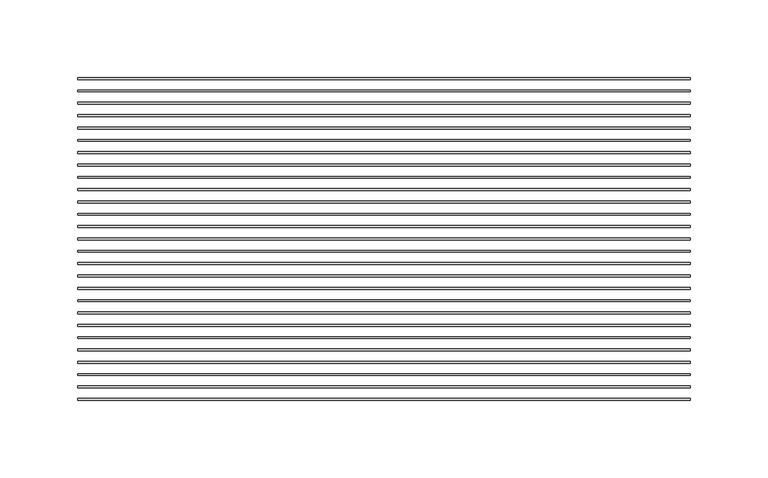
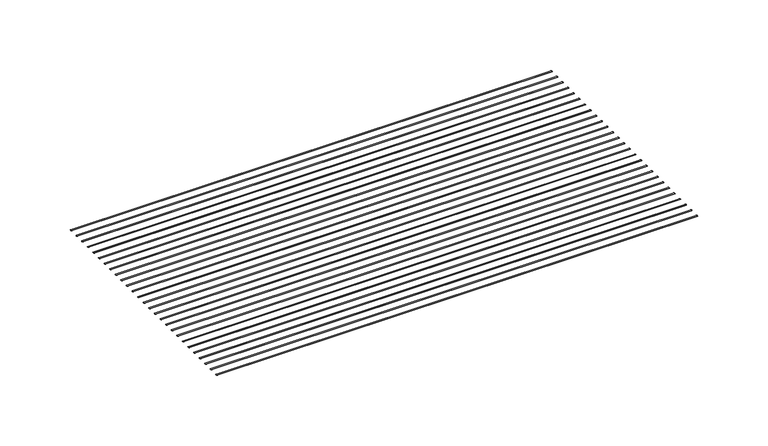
"""IFC4 building model written with IfcOpenShell, lengths in millimetres: proxy geometry, CRAi Generic Model Mesh Piece Face Based : CRAi Generic Model Mesh Piece Face Based."""

from ifc_helpers import new_model, si_unit, point, frame, origin, place, context, project, spatial, ellipse_curve, trimmed, source, transform, mapped, element, save
from ifc_brep_helpers import plane_surface, extruded_surface, advanced_brep


def generic_models_4c4c8c8b(model_context):
    return source(origin(), model_context, "Body", "AdvancedBrep", [
        advanced_brep(
        [(-196.85, -126.8644515, -2.9765625), (-196.85, -125.6738265, -2.9765625), (196.85, -126.8644515, -2.9765625), (196.85, -125.6738265, -2.9765625)],
        [
            (0, 1, ellipse_curve(frame((-196.85, -126.269139, -2.9765625), z_axis=(-1.0, 0.0, 0.0), x_axis=(0.0, 1.0, 0.0)), 0.5953125, 0.1984375)),
            (1, 0, ellipse_curve(frame((-196.85, -126.269139, -2.9765625), z_axis=(-1.0, 0.0, 0.0), x_axis=(0.0, 1.0, 0.0)), 0.5953125, 0.1984375)),
            (2, 3, ellipse_curve(frame((196.85, -126.269139, -2.9765625), z_axis=(1.0, 0.0, 0.0), x_axis=(0.0, 1.0, 0.0)), 0.5953125, 0.1984375)),
            (3, 2, ellipse_curve(frame((196.85, -126.269139, -2.9765625), z_axis=(1.0, 0.0, 0.0), x_axis=(0.0, 1.0, 0.0)), 0.5953125, 0.1984375)),
            (1, 3),
            (2, 0),
        ],
        [
            plane_surface(frame((-196.85, -126.269139, -2.9765625), z_axis=(-1.0, 0.0, 0.0), x_axis=(0.0, 0.0, 1.0))),
            plane_surface(frame((196.85, -126.269139, -2.9765625), z_axis=(1.0, 0.0, 0.0), x_axis=(0.0, 0.0, 1.0))),
            extruded_surface(trimmed(ellipse_curve(frame((-196.85, -126.269139, -2.9765625), z_axis=(1.0, 0.0, 0.0), x_axis=(0.0, 1.0, 0.0)), 0.5953125, 0.1984375), [point((-196.85, -126.8644515, -2.9765625))], [point((-196.85, -125.6738265, -2.9765625))], True, "CARTESIAN"), (393.7, 0.0, 0.0), 393.7),
            extruded_surface(trimmed(ellipse_curve(frame((-196.85, -126.269139, -2.9765625), z_axis=(1.0, 0.0, 0.0), x_axis=(0.0, 1.0, 0.0)), 0.5953125, 0.1984375), [point((-196.85, -125.6738265, -2.9765625))], [point((-196.85, -126.8644515, -2.9765625))], True, "CARTESIAN"), (393.7, 0.0, 0.0), 393.7),
        ],
        [
            (0, [[1, 2]]),
            (1, [[3, 4]]),
            (2, [[5, -3, 6, -2]]),
            (3, [[-6, -4, -5, -1]]),
        ],
    ),
        advanced_brep(
        [(-196.85, -118.9269515, -2.9765625), (-196.85, -117.7363265, -2.9765625), (196.85, -118.9269515, -2.9765625), (196.85, -117.7363265, -2.9765625)],
        [
            (0, 1, ellipse_curve(frame((-196.85, -118.331639, -2.9765625), z_axis=(-1.0, 0.0, 0.0), x_axis=(0.0, 1.0, 0.0)), 0.5953125, 0.1984375)),
            (1, 0, ellipse_curve(frame((-196.85, -118.331639, -2.9765625), z_axis=(-1.0, 0.0, 0.0), x_axis=(0.0, 1.0, 0.0)), 0.5953125, 0.1984375)),
            (2, 3, ellipse_curve(frame((196.85, -118.331639, -2.9765625), z_axis=(1.0, 0.0, 0.0), x_axis=(0.0, 1.0, 0.0)), 0.5953125, 0.1984375)),
            (3, 2, ellipse_curve(frame((196.85, -118.331639, -2.9765625), z_axis=(1.0, 0.0, 0.0), x_axis=(0.0, 1.0, 0.0)), 0.5953125, 0.1984375)),
            (1, 3),
            (2, 0),
        ],
        [
            plane_surface(frame((-196.85, -118.331639, -2.9765625), z_axis=(-1.0, 0.0, 0.0), x_axis=(0.0, 0.0, 1.0))),
            plane_surface(frame((196.85, -118.331639, -2.9765625), z_axis=(1.0, 0.0, 0.0), x_axis=(0.0, 0.0, 1.0))),
            extruded_surface(trimmed(ellipse_curve(frame((-196.85, -118.331639, -2.9765625), z_axis=(1.0, 0.0, 0.0), x_axis=(0.0, 1.0, 0.0)), 0.5953125, 0.1984375), [point((-196.85, -118.9269515, -2.9765625))], [point((-196.85, -117.7363265, -2.9765625))], True, "CARTESIAN"), (393.7, 0.0, 0.0), 393.7),
            extruded_surface(trimmed(ellipse_curve(frame((-196.85, -118.331639, -2.9765625), z_axis=(1.0, 0.0, 0.0), x_axis=(0.0, 1.0, 0.0)), 0.5953125, 0.1984375), [point((-196.85, -117.7363265, -2.9765625))], [point((-196.85, -118.9269515, -2.9765625))], True, "CARTESIAN"), (393.7, 0.0, 0.0), 393.7),
        ],
        [
            (0, [[1, 2]]),
            (1, [[3, 4]]),
            (2, [[5, -3, 6, -2]]),
            (3, [[-6, -4, -5, -1]]),
        ],
    ),
        advanced_brep(
        [(-196.85, -110.9894515, -2.9765625), (-196.85, -109.7988265, -2.9765625), (196.85, -110.9894515, -2.9765625), (196.85, -109.7988265, -2.9765625)],
        [
            (0, 1, ellipse_curve(frame((-196.85, -110.394139, -2.9765625), z_axis=(-1.0, 0.0, 0.0), x_axis=(0.0, 1.0, 0.0)), 0.5953125, 0.1984375)),
            (1, 0, ellipse_curve(frame((-196.85, -110.394139, -2.9765625), z_axis=(-1.0, 0.0, 0.0), x_axis=(0.0, 1.0, 0.0)), 0.5953125, 0.1984375)),
            (2, 3, ellipse_curve(frame((196.85, -110.394139, -2.9765625), z_axis=(1.0, 0.0, 0.0), x_axis=(0.0, 1.0, 0.0)), 0.5953125, 0.1984375)),
            (3, 2, ellipse_curve(frame((196.85, -110.394139, -2.9765625), z_axis=(1.0, 0.0, 0.0), x_axis=(0.0, 1.0, 0.0)), 0.5953125, 0.1984375)),
            (1, 3),
            (2, 0),
        ],
        [
            plane_surface(frame((-196.85, -110.394139, -2.9765625), z_axis=(-1.0, 0.0, 0.0), x_axis=(0.0, 0.0, 1.0))),
            plane_surface(frame((196.85, -110.394139, -2.9765625), z_axis=(1.0, 0.0, 0.0), x_axis=(0.0, 0.0, 1.0))),
            extruded_surface(trimmed(ellipse_curve(frame((-196.85, -110.394139, -2.9765625), z_axis=(1.0, 0.0, 0.0), x_axis=(0.0, 1.0, 0.0)), 0.5953125, 0.1984375), [point((-196.85, -110.9894515, -2.9765625))], [point((-196.85, -109.7988265, -2.9765625))], True, "CARTESIAN"), (393.7, 0.0, 0.0), 393.7),
            extruded_surface(trimmed(ellipse_curve(frame((-196.85, -110.394139, -2.9765625), z_axis=(1.0, 0.0, 0.0), x_axis=(0.0, 1.0, 0.0)), 0.5953125, 0.1984375), [point((-196.85, -109.7988265, -2.9765625))], [point((-196.85, -110.9894515, -2.9765625))], True, "CARTESIAN"), (393.7, 0.0, 0.0), 393.7),
        ],
        [
            (0, [[1, 2]]),
            (1, [[3, 4]]),
            (2, [[5, -3, 6, -2]]),
            (3, [[-6, -4, -5, -1]]),
        ],
    ),
        advanced_brep(
        [(-196.85, -103.0519515, -2.9765625), (-196.85, -101.8613265, -2.9765625), (196.85, -103.0519515, -2.9765625), (196.85, -101.8613265, -2.9765625)],
        [
            (0, 1, ellipse_curve(frame((-196.85, -102.456639, -2.9765625), z_axis=(-1.0, 0.0, 0.0), x_axis=(0.0, 1.0, 0.0)), 0.5953125, 0.1984375)),
            (1, 0, ellipse_curve(frame((-196.85, -102.456639, -2.9765625), z_axis=(-1.0, 0.0, 0.0), x_axis=(0.0, 1.0, 0.0)), 0.5953125, 0.1984375)),
            (2, 3, ellipse_curve(frame((196.85, -102.456639, -2.9765625), z_axis=(1.0, 0.0, 0.0), x_axis=(0.0, 1.0, 0.0)), 0.5953125, 0.1984375)),
            (3, 2, ellipse_curve(frame((196.85, -102.456639, -2.9765625), z_axis=(1.0, 0.0, 0.0), x_axis=(0.0, 1.0, 0.0)), 0.5953125, 0.1984375)),
            (1, 3),
            (2, 0),
        ],
        [
            plane_surface(frame((-196.85, -102.456639, -2.9765625), z_axis=(-1.0, 0.0, 0.0), x_axis=(0.0, 0.0, 1.0))),
            plane_surface(frame((196.85, -102.456639, -2.9765625), z_axis=(1.0, 0.0, 0.0), x_axis=(0.0, 0.0, 1.0))),
            extruded_surface(trimmed(ellipse_curve(frame((-196.85, -102.456639, -2.9765625), z_axis=(1.0, 0.0, 0.0), x_axis=(0.0, 1.0, 0.0)), 0.5953125, 0.1984375), [point((-196.85, -103.0519515, -2.9765625))], [point((-196.85, -101.8613265, -2.9765625))], True, "CARTESIAN"), (393.7, 0.0, 0.0), 393.7),
            extruded_surface(trimmed(ellipse_curve(frame((-196.85, -102.456639, -2.9765625), z_axis=(1.0, 0.0, 0.0), x_axis=(0.0, 1.0, 0.0)), 0.5953125, 0.1984375), [point((-196.85, -101.8613265, -2.9765625))], [point((-196.85, -103.0519515, -2.9765625))], True, "CARTESIAN"), (393.7, 0.0, 0.0), 393.7),
        ],
        [
            (0, [[1, 2]]),
            (1, [[3, 4]]),
            (2, [[5, -3, 6, -2]]),
            (3, [[-6, -4, -5, -1]]),
        ],
    ),
        advanced_brep(
        [(-196.85, -95.1144515, -2.9765625), (-196.85, -93.9238265, -2.9765625), (196.85, -95.1144515, -2.9765625), (196.85, -93.9238265, -2.9765625)],
        [
            (0, 1, ellipse_curve(frame((-196.85, -94.519139, -2.9765625), z_axis=(-1.0, 0.0, 0.0), x_axis=(0.0, 1.0, 0.0)), 0.5953125, 0.1984375)),
            (1, 0, ellipse_curve(frame((-196.85, -94.519139, -2.9765625), z_axis=(-1.0, 0.0, 0.0), x_axis=(0.0, 1.0, 0.0)), 0.5953125, 0.1984375)),
            (2, 3, ellipse_curve(frame((196.85, -94.519139, -2.9765625), z_axis=(1.0, 0.0, 0.0), x_axis=(0.0, 1.0, 0.0)), 0.5953125, 0.1984375)),
            (3, 2, ellipse_curve(frame((196.85, -94.519139, -2.9765625), z_axis=(1.0, 0.0, 0.0), x_axis=(0.0, 1.0, 0.0)), 0.5953125, 0.1984375)),
            (1, 3),
            (2, 0),
        ],
        [
            plane_surface(frame((-196.85, -94.519139, -2.9765625), z_axis=(-1.0, 0.0, 0.0), x_axis=(0.0, 0.0, 1.0))),
            plane_surface(frame((196.85, -94.519139, -2.9765625), z_axis=(1.0, 0.0, 0.0), x_axis=(0.0, 0.0, 1.0))),
            extruded_surface(trimmed(ellipse_curve(frame((-196.85, -94.519139, -2.9765625), z_axis=(1.0, 0.0, 0.0), x_axis=(0.0, 1.0, 0.0)), 0.5953125, 0.1984375), [point((-196.85, -95.1144515, -2.9765625))], [point((-196.85, -93.9238265, -2.9765625))], True, "CARTESIAN"), (393.7, 0.0, 0.0), 393.7),
            extruded_surface(trimmed(ellipse_curve(frame((-196.85, -94.519139, -2.9765625), z_axis=(1.0, 0.0, 0.0), x_axis=(0.0, 1.0, 0.0)), 0.5953125, 0.1984375), [point((-196.85, -93.9238265, -2.9765625))], [point((-196.85, -95.1144515, -2.9765625))], True, "CARTESIAN"), (393.7, 0.0, 0.0), 393.7),
        ],
        [
            (0, [[1, 2]]),
            (1, [[3, 4]]),
            (2, [[5, -3, 6, -2]]),
            (3, [[-6, -4, -5, -1]]),
        ],
    ),
        advanced_brep(
        [(-196.85, -87.1769515, -2.9765625), (-196.85, -85.9863265, -2.9765625), (196.85, -87.1769515, -2.9765625), (196.85, -85.9863265, -2.9765625)],
        [
            (0, 1, ellipse_curve(frame((-196.85, -86.581639, -2.9765625), z_axis=(-1.0, 0.0, 0.0), x_axis=(0.0, 1.0, 0.0)), 0.5953125, 0.1984375)),
            (1, 0, ellipse_curve(frame((-196.85, -86.581639, -2.9765625), z_axis=(-1.0, 0.0, 0.0), x_axis=(0.0, 1.0, 0.0)), 0.5953125, 0.1984375)),
            (2, 3, ellipse_curve(frame((196.85, -86.581639, -2.9765625), z_axis=(1.0, 0.0, 0.0), x_axis=(0.0, 1.0, 0.0)), 0.5953125, 0.1984375)),
            (3, 2, ellipse_curve(frame((196.85, -86.581639, -2.9765625), z_axis=(1.0, 0.0, 0.0), x_axis=(0.0, 1.0, 0.0)), 0.5953125, 0.1984375)),
            (1, 3),
            (2, 0),
        ],
        [
            plane_surface(frame((-196.85, -86.581639, -2.9765625), z_axis=(-1.0, 0.0, 0.0), x_axis=(0.0, 0.0, 1.0))),
            plane_surface(frame((196.85, -86.581639, -2.9765625), z_axis=(1.0, 0.0, 0.0), x_axis=(0.0, 0.0, 1.0))),
            extruded_surface(trimmed(ellipse_curve(frame((-196.85, -86.581639, -2.9765625), z_axis=(1.0, 0.0, 0.0), x_axis=(0.0, 1.0, 0.0)), 0.5953125, 0.1984375), [point((-196.85, -87.1769515, -2.9765625))], [point((-196.85, -85.9863265, -2.9765625))], True, "CARTESIAN"), (393.7, 0.0, 0.0), 393.7),
            extruded_surface(trimmed(ellipse_curve(frame((-196.85, -86.581639, -2.9765625), z_axis=(1.0, 0.0, 0.0), x_axis=(0.0, 1.0, 0.0)), 0.5953125, 0.1984375), [point((-196.85, -85.9863265, -2.9765625))], [point((-196.85, -87.1769515, -2.9765625))], True, "CARTESIAN"), (393.7, 0.0, 0.0), 393.7),
        ],
        [
            (0, [[1, 2]]),
            (1, [[3, 4]]),
            (2, [[5, -3, 6, -2]]),
            (3, [[-6, -4, -5, -1]]),
        ],
    ),
        advanced_brep(
        [(-196.85, -79.2394515, -2.9765625), (-196.85, -78.0488265, -2.9765625), (196.85, -79.2394515, -2.9765625), (196.85, -78.0488265, -2.9765625)],
        [
            (0, 1, ellipse_curve(frame((-196.85, -78.644139, -2.9765625), z_axis=(-1.0, 0.0, 0.0), x_axis=(0.0, 1.0, 0.0)), 0.5953125, 0.1984375)),
            (1, 0, ellipse_curve(frame((-196.85, -78.644139, -2.9765625), z_axis=(-1.0, 0.0, 0.0), x_axis=(0.0, 1.0, 0.0)), 0.5953125, 0.1984375)),
            (2, 3, ellipse_curve(frame((196.85, -78.644139, -2.9765625), z_axis=(1.0, 0.0, 0.0), x_axis=(0.0, 1.0, 0.0)), 0.5953125, 0.1984375)),
            (3, 2, ellipse_curve(frame((196.85, -78.644139, -2.9765625), z_axis=(1.0, 0.0, 0.0), x_axis=(0.0, 1.0, 0.0)), 0.5953125, 0.1984375)),
            (1, 3),
            (2, 0),
        ],
        [
            plane_surface(frame((-196.85, -78.644139, -2.9765625), z_axis=(-1.0, 0.0, 0.0), x_axis=(0.0, 0.0, 1.0))),
            plane_surface(frame((196.85, -78.644139, -2.9765625), z_axis=(1.0, 0.0, 0.0), x_axis=(0.0, 0.0, 1.0))),
            extruded_surface(trimmed(ellipse_curve(frame((-196.85, -78.644139, -2.9765625), z_axis=(1.0, 0.0, 0.0), x_axis=(0.0, 1.0, 0.0)), 0.5953125, 0.1984375), [point((-196.85, -79.2394515, -2.9765625))], [point((-196.85, -78.0488265, -2.9765625))], True, "CARTESIAN"), (393.7, 0.0, 0.0), 393.7),
            extruded_surface(trimmed(ellipse_curve(frame((-196.85, -78.644139, -2.9765625), z_axis=(1.0, 0.0, 0.0), x_axis=(0.0, 1.0, 0.0)), 0.5953125, 0.1984375), [point((-196.85, -78.0488265, -2.9765625))], [point((-196.85, -79.2394515, -2.9765625))], True, "CARTESIAN"), (393.7, 0.0, 0.0), 393.7),
        ],
        [
            (0, [[1, 2]]),
            (1, [[3, 4]]),
            (2, [[5, -3, 6, -2]]),
            (3, [[-6, -4, -5, -1]]),
        ],
    ),
        advanced_brep(
        [(-196.85, -71.3019515, -2.9765625), (-196.85, -70.1113265, -2.9765625), (196.85, -71.3019515, -2.9765625), (196.85, -70.1113265, -2.9765625)],
        [
            (0, 1, ellipse_curve(frame((-196.85, -70.706639, -2.9765625), z_axis=(-1.0, 0.0, 0.0), x_axis=(0.0, 1.0, 0.0)), 0.5953125, 0.1984375)),
            (1, 0, ellipse_curve(frame((-196.85, -70.706639, -2.9765625), z_axis=(-1.0, 0.0, 0.0), x_axis=(0.0, 1.0, 0.0)), 0.5953125, 0.1984375)),
            (2, 3, ellipse_curve(frame((196.85, -70.706639, -2.9765625), z_axis=(1.0, 0.0, 0.0), x_axis=(0.0, 1.0, 0.0)), 0.5953125, 0.1984375)),
            (3, 2, ellipse_curve(frame((196.85, -70.706639, -2.9765625), z_axis=(1.0, 0.0, 0.0), x_axis=(0.0, 1.0, 0.0)), 0.5953125, 0.1984375)),
            (1, 3),
            (2, 0),
        ],
        [
            plane_surface(frame((-196.85, -70.706639, -2.9765625), z_axis=(-1.0, 0.0, 0.0), x_axis=(0.0, 0.0, 1.0))),
            plane_surface(frame((196.85, -70.706639, -2.9765625), z_axis=(1.0, 0.0, 0.0), x_axis=(0.0, 0.0, 1.0))),
            extruded_surface(trimmed(ellipse_curve(frame((-196.85, -70.706639, -2.9765625), z_axis=(1.0, 0.0, 0.0), x_axis=(0.0, 1.0, 0.0)), 0.5953125, 0.1984375), [point((-196.85, -71.3019515, -2.9765625))], [point((-196.85, -70.1113265, -2.9765625))], True, "CARTESIAN"), (393.7, 0.0, 0.0), 393.7),
            extruded_surface(trimmed(ellipse_curve(frame((-196.85, -70.706639, -2.9765625), z_axis=(1.0, 0.0, 0.0), x_axis=(0.0, 1.0, 0.0)), 0.5953125, 0.1984375), [point((-196.85, -70.1113265, -2.9765625))], [point((-196.85, -71.3019515, -2.9765625))], True, "CARTESIAN"), (393.7, 0.0, 0.0), 393.7),
        ],
        [
            (0, [[1, 2]]),
            (1, [[3, 4]]),
            (2, [[5, -3, 6, -2]]),
            (3, [[-6, -4, -5, -1]]),
        ],
    ),
        advanced_brep(
        [(-196.85, -63.3644515, -2.9765625), (-196.85, -62.1738265, -2.9765625), (196.85, -63.3644515, -2.9765625), (196.85, -62.1738265, -2.9765625)],
        [
            (0, 1, ellipse_curve(frame((-196.85, -62.769139, -2.9765625), z_axis=(-1.0, 0.0, 0.0), x_axis=(0.0, 1.0, 0.0)), 0.5953125, 0.1984375)),
            (1, 0, ellipse_curve(frame((-196.85, -62.769139, -2.9765625), z_axis=(-1.0, 0.0, 0.0), x_axis=(0.0, 1.0, 0.0)), 0.5953125, 0.1984375)),
            (2, 3, ellipse_curve(frame((196.85, -62.769139, -2.9765625), z_axis=(1.0, 0.0, 0.0), x_axis=(0.0, 1.0, 0.0)), 0.5953125, 0.1984375)),
            (3, 2, ellipse_curve(frame((196.85, -62.769139, -2.9765625), z_axis=(1.0, 0.0, 0.0), x_axis=(0.0, 1.0, 0.0)), 0.5953125, 0.1984375)),
            (1, 3),
            (2, 0),
        ],
        [
            plane_surface(frame((-196.85, -62.769139, -2.9765625), z_axis=(-1.0, 0.0, 0.0), x_axis=(0.0, 0.0, 1.0))),
            plane_surface(frame((196.85, -62.769139, -2.9765625), z_axis=(1.0, 0.0, 0.0), x_axis=(0.0, 0.0, 1.0))),
            extruded_surface(trimmed(ellipse_curve(frame((-196.85, -62.769139, -2.9765625), z_axis=(1.0, 0.0, 0.0), x_axis=(0.0, 1.0, 0.0)), 0.5953125, 0.1984375), [point((-196.85, -63.3644515, -2.9765625))], [point((-196.85, -62.1738265, -2.9765625))], True, "CARTESIAN"), (393.7, 0.0, 0.0), 393.7),
            extruded_surface(trimmed(ellipse_curve(frame((-196.85, -62.769139, -2.9765625), z_axis=(1.0, 0.0, 0.0), x_axis=(0.0, 1.0, 0.0)), 0.5953125, 0.1984375), [point((-196.85, -62.1738265, -2.9765625))], [point((-196.85, -63.3644515, -2.9765625))], True, "CARTESIAN"), (393.7, 0.0, 0.0), 393.7),
        ],
        [
            (0, [[1, 2]]),
            (1, [[3, 4]]),
            (2, [[5, -3, 6, -2]]),
            (3, [[-6, -4, -5, -1]]),
        ],
    ),
        advanced_brep(
        [(-196.85, -55.4269515, -2.9765625), (-196.85, -54.2363265, -2.9765625), (196.85, -55.4269515, -2.9765625), (196.85, -54.2363265, -2.9765625)],
        [
            (0, 1, ellipse_curve(frame((-196.85, -54.831639, -2.9765625), z_axis=(-1.0, 0.0, 0.0), x_axis=(0.0, 1.0, 0.0)), 0.5953125, 0.1984375)),
            (1, 0, ellipse_curve(frame((-196.85, -54.831639, -2.9765625), z_axis=(-1.0, 0.0, 0.0), x_axis=(0.0, 1.0, 0.0)), 0.5953125, 0.1984375)),
            (2, 3, ellipse_curve(frame((196.85, -54.831639, -2.9765625), z_axis=(1.0, 0.0, 0.0), x_axis=(0.0, 1.0, 0.0)), 0.5953125, 0.1984375)),
            (3, 2, ellipse_curve(frame((196.85, -54.831639, -2.9765625), z_axis=(1.0, 0.0, 0.0), x_axis=(0.0, 1.0, 0.0)), 0.5953125, 0.1984375)),
            (1, 3),
            (2, 0),
        ],
        [
            plane_surface(frame((-196.85, -54.831639, -2.9765625), z_axis=(-1.0, 0.0, 0.0), x_axis=(0.0, 0.0, 1.0))),
            plane_surface(frame((196.85, -54.831639, -2.9765625), z_axis=(1.0, 0.0, 0.0), x_axis=(0.0, 0.0, 1.0))),
            extruded_surface(trimmed(ellipse_curve(frame((-196.85, -54.831639, -2.9765625), z_axis=(1.0, 0.0, 0.0), x_axis=(0.0, 1.0, 0.0)), 0.5953125, 0.1984375), [point((-196.85, -55.4269515, -2.9765625))], [point((-196.85, -54.2363265, -2.9765625))], True, "CARTESIAN"), (393.7, 0.0, 0.0), 393.7),
            extruded_surface(trimmed(ellipse_curve(frame((-196.85, -54.831639, -2.9765625), z_axis=(1.0, 0.0, 0.0), x_axis=(0.0, 1.0, 0.0)), 0.5953125, 0.1984375), [point((-196.85, -54.2363265, -2.9765625))], [point((-196.85, -55.4269515, -2.9765625))], True, "CARTESIAN"), (393.7, 0.0, 0.0), 393.7),
        ],
        [
            (0, [[1, 2]]),
            (1, [[3, 4]]),
            (2, [[5, -3, 6, -2]]),
            (3, [[-6, -4, -5, -1]]),
        ],
    ),
        advanced_brep(
        [(-196.85, -47.4894515, -2.9765625), (-196.85, -46.2988265, -2.9765625), (196.85, -47.4894515, -2.9765625), (196.85, -46.2988265, -2.9765625)],
        [
            (0, 1, ellipse_curve(frame((-196.85, -46.894139, -2.9765625), z_axis=(-1.0, 0.0, 0.0), x_axis=(0.0, 1.0, 0.0)), 0.5953125, 0.1984375)),
            (1, 0, ellipse_curve(frame((-196.85, -46.894139, -2.9765625), z_axis=(-1.0, 0.0, 0.0), x_axis=(0.0, 1.0, 0.0)), 0.5953125, 0.1984375)),
            (2, 3, ellipse_curve(frame((196.85, -46.894139, -2.9765625), z_axis=(1.0, 0.0, 0.0), x_axis=(0.0, 1.0, 0.0)), 0.5953125, 0.1984375)),
            (3, 2, ellipse_curve(frame((196.85, -46.894139, -2.9765625), z_axis=(1.0, 0.0, 0.0), x_axis=(0.0, 1.0, 0.0)), 0.5953125, 0.1984375)),
            (1, 3),
            (2, 0),
        ],
        [
            plane_surface(frame((-196.85, -46.894139, -2.9765625), z_axis=(-1.0, 0.0, 0.0), x_axis=(0.0, 0.0, 1.0))),
            plane_surface(frame((196.85, -46.894139, -2.9765625), z_axis=(1.0, 0.0, 0.0), x_axis=(0.0, 0.0, 1.0))),
            extruded_surface(trimmed(ellipse_curve(frame((-196.85, -46.894139, -2.9765625), z_axis=(1.0, 0.0, 0.0), x_axis=(0.0, 1.0, 0.0)), 0.5953125, 0.1984375), [point((-196.85, -47.4894515, -2.9765625))], [point((-196.85, -46.2988265, -2.9765625))], True, "CARTESIAN"), (393.7, 0.0, 0.0), 393.7),
            extruded_surface(trimmed(ellipse_curve(frame((-196.85, -46.894139, -2.9765625), z_axis=(1.0, 0.0, 0.0), x_axis=(0.0, 1.0, 0.0)), 0.5953125, 0.1984375), [point((-196.85, -46.2988265, -2.9765625))], [point((-196.85, -47.4894515, -2.9765625))], True, "CARTESIAN"), (393.7, 0.0, 0.0), 393.7),
        ],
        [
            (0, [[1, 2]]),
            (1, [[3, 4]]),
            (2, [[5, -3, 6, -2]]),
            (3, [[-6, -4, -5, -1]]),
        ],
    ),
        advanced_brep(
        [(-196.85, -39.5519515, -2.9765625), (-196.85, -38.3613265, -2.9765625), (196.85, -39.5519515, -2.9765625), (196.85, -38.3613265, -2.9765625)],
        [
            (0, 1, ellipse_curve(frame((-196.85, -38.956639, -2.9765625), z_axis=(-1.0, 0.0, 0.0), x_axis=(0.0, 1.0, 0.0)), 0.5953125, 0.1984375)),
            (1, 0, ellipse_curve(frame((-196.85, -38.956639, -2.9765625), z_axis=(-1.0, 0.0, 0.0), x_axis=(0.0, 1.0, 0.0)), 0.5953125, 0.1984375)),
            (2, 3, ellipse_curve(frame((196.85, -38.956639, -2.9765625), z_axis=(1.0, 0.0, 0.0), x_axis=(0.0, 1.0, 0.0)), 0.5953125, 0.1984375)),
            (3, 2, ellipse_curve(frame((196.85, -38.956639, -2.9765625), z_axis=(1.0, 0.0, 0.0), x_axis=(0.0, 1.0, 0.0)), 0.5953125, 0.1984375)),
            (1, 3),
            (2, 0),
        ],
        [
            plane_surface(frame((-196.85, -38.956639, -2.9765625), z_axis=(-1.0, 0.0, 0.0), x_axis=(0.0, 0.0, 1.0))),
            plane_surface(frame((196.85, -38.956639, -2.9765625), z_axis=(1.0, 0.0, 0.0), x_axis=(0.0, 0.0, 1.0))),
            extruded_surface(trimmed(ellipse_curve(frame((-196.85, -38.956639, -2.9765625), z_axis=(1.0, 0.0, 0.0), x_axis=(0.0, 1.0, 0.0)), 0.5953125, 0.1984375), [point((-196.85, -39.5519515, -2.9765625))], [point((-196.85, -38.3613265, -2.9765625))], True, "CARTESIAN"), (393.7, 0.0, 0.0), 393.7),
            extruded_surface(trimmed(ellipse_curve(frame((-196.85, -38.956639, -2.9765625), z_axis=(1.0, 0.0, 0.0), x_axis=(0.0, 1.0, 0.0)), 0.5953125, 0.1984375), [point((-196.85, -38.3613265, -2.9765625))], [point((-196.85, -39.5519515, -2.9765625))], True, "CARTESIAN"), (393.7, 0.0, 0.0), 393.7),
        ],
        [
            (0, [[1, 2]]),
            (1, [[3, 4]]),
            (2, [[5, -3, 6, -2]]),
            (3, [[-6, -4, -5, -1]]),
        ],
    ),
        advanced_brep(
        [(-196.85, -31.6144515, -2.9765625), (-196.85, -30.4238265, -2.9765625), (196.85, -31.6144515, -2.9765625), (196.85, -30.4238265, -2.9765625)],
        [
            (0, 1, ellipse_curve(frame((-196.85, -31.019139, -2.9765625), z_axis=(-1.0, 0.0, 0.0), x_axis=(0.0, 1.0, 0.0)), 0.5953125, 0.1984375)),
            (1, 0, ellipse_curve(frame((-196.85, -31.019139, -2.9765625), z_axis=(-1.0, 0.0, 0.0), x_axis=(0.0, 1.0, 0.0)), 0.5953125, 0.1984375)),
            (2, 3, ellipse_curve(frame((196.85, -31.019139, -2.9765625), z_axis=(1.0, 0.0, 0.0), x_axis=(0.0, 1.0, 0.0)), 0.5953125, 0.1984375)),
            (3, 2, ellipse_curve(frame((196.85, -31.019139, -2.9765625), z_axis=(1.0, 0.0, 0.0), x_axis=(0.0, 1.0, 0.0)), 0.5953125, 0.1984375)),
            (1, 3),
            (2, 0),
        ],
        [
            plane_surface(frame((-196.85, -31.019139, -2.9765625), z_axis=(-1.0, 0.0, 0.0), x_axis=(0.0, 0.0, 1.0))),
            plane_surface(frame((196.85, -31.019139, -2.9765625), z_axis=(1.0, 0.0, 0.0), x_axis=(0.0, 0.0, 1.0))),
            extruded_surface(trimmed(ellipse_curve(frame((-196.85, -31.019139, -2.9765625), z_axis=(1.0, 0.0, 0.0), x_axis=(0.0, 1.0, 0.0)), 0.5953125, 0.1984375), [point((-196.85, -31.6144515, -2.9765625))], [point((-196.85, -30.4238265, -2.9765625))], True, "CARTESIAN"), (393.7, 0.0, 0.0), 393.7),
            extruded_surface(trimmed(ellipse_curve(frame((-196.85, -31.019139, -2.9765625), z_axis=(1.0, 0.0, 0.0), x_axis=(0.0, 1.0, 0.0)), 0.5953125, 0.1984375), [point((-196.85, -30.4238265, -2.9765625))], [point((-196.85, -31.6144515, -2.9765625))], True, "CARTESIAN"), (393.7, 0.0, 0.0), 393.7),
        ],
        [
            (0, [[1, 2]]),
            (1, [[3, 4]]),
            (2, [[5, -3, 6, -2]]),
            (3, [[-6, -4, -5, -1]]),
        ],
    ),
        advanced_brep(
        [(-196.85, -23.6769515, -2.9765625), (-196.85, -22.4863265, -2.9765625), (196.85, -23.6769515, -2.9765625), (196.85, -22.4863265, -2.9765625)],
        [
            (0, 1, ellipse_curve(frame((-196.85, -23.081639, -2.9765625), z_axis=(-1.0, 0.0, 0.0), x_axis=(0.0, 1.0, 0.0)), 0.5953125, 0.1984375)),
            (1, 0, ellipse_curve(frame((-196.85, -23.081639, -2.9765625), z_axis=(-1.0, 0.0, 0.0), x_axis=(0.0, 1.0, 0.0)), 0.5953125, 0.1984375)),
            (2, 3, ellipse_curve(frame((196.85, -23.081639, -2.9765625), z_axis=(1.0, 0.0, 0.0), x_axis=(0.0, 1.0, 0.0)), 0.5953125, 0.1984375)),
            (3, 2, ellipse_curve(frame((196.85, -23.081639, -2.9765625), z_axis=(1.0, 0.0, 0.0), x_axis=(0.0, 1.0, 0.0)), 0.5953125, 0.1984375)),
            (1, 3),
            (2, 0),
        ],
        [
            plane_surface(frame((-196.85, -23.081639, -2.9765625), z_axis=(-1.0, 0.0, 0.0), x_axis=(0.0, 0.0, 1.0))),
            plane_surface(frame((196.85, -23.081639, -2.9765625), z_axis=(1.0, 0.0, 0.0), x_axis=(0.0, 0.0, 1.0))),
            extruded_surface(trimmed(ellipse_curve(frame((-196.85, -23.081639, -2.9765625), z_axis=(1.0, 0.0, 0.0), x_axis=(0.0, 1.0, 0.0)), 0.5953125, 0.1984375), [point((-196.85, -23.6769515, -2.9765625))], [point((-196.85, -22.4863265, -2.9765625))], True, "CARTESIAN"), (393.7, 0.0, 0.0), 393.7),
            extruded_surface(trimmed(ellipse_curve(frame((-196.85, -23.081639, -2.9765625), z_axis=(1.0, 0.0, 0.0), x_axis=(0.0, 1.0, 0.0)), 0.5953125, 0.1984375), [point((-196.85, -22.4863265, -2.9765625))], [point((-196.85, -23.6769515, -2.9765625))], True, "CARTESIAN"), (393.7, 0.0, 0.0), 393.7),
        ],
        [
            (0, [[1, 2]]),
            (1, [[3, 4]]),
            (2, [[5, -3, 6, -2]]),
            (3, [[-6, -4, -5, -1]]),
        ],
    ),
        advanced_brep(
        [(-196.85, -15.7394515, -2.9765625), (-196.85, -14.5488265, -2.9765625), (196.85, -15.7394515, -2.9765625), (196.85, -14.5488265, -2.9765625)],
        [
            (0, 1, ellipse_curve(frame((-196.85, -15.144139, -2.9765625), z_axis=(-1.0, 0.0, 0.0), x_axis=(0.0, 1.0, 0.0)), 0.5953125, 0.1984375)),
            (1, 0, ellipse_curve(frame((-196.85, -15.144139, -2.9765625), z_axis=(-1.0, 0.0, 0.0), x_axis=(0.0, 1.0, 0.0)), 0.5953125, 0.1984375)),
            (2, 3, ellipse_curve(frame((196.85, -15.144139, -2.9765625), z_axis=(1.0, 0.0, 0.0), x_axis=(0.0, 1.0, 0.0)), 0.5953125, 0.1984375)),
            (3, 2, ellipse_curve(frame((196.85, -15.144139, -2.9765625), z_axis=(1.0, 0.0, 0.0), x_axis=(0.0, 1.0, 0.0)), 0.5953125, 0.1984375)),
            (1, 3),
            (2, 0),
        ],
        [
            plane_surface(frame((-196.85, -15.144139, -2.9765625), z_axis=(-1.0, 0.0, 0.0), x_axis=(0.0, 0.0, 1.0))),
            plane_surface(frame((196.85, -15.144139, -2.9765625), z_axis=(1.0, 0.0, 0.0), x_axis=(0.0, 0.0, 1.0))),
            extruded_surface(trimmed(ellipse_curve(frame((-196.85, -15.144139, -2.9765625), z_axis=(1.0, 0.0, 0.0), x_axis=(0.0, 1.0, 0.0)), 0.5953125, 0.1984375), [point((-196.85, -15.7394515, -2.9765625))], [point((-196.85, -14.5488265, -2.9765625))], True, "CARTESIAN"), (393.7, 0.0, 0.0), 393.7),
            extruded_surface(trimmed(ellipse_curve(frame((-196.85, -15.144139, -2.9765625), z_axis=(1.0, 0.0, 0.0), x_axis=(0.0, 1.0, 0.0)), 0.5953125, 0.1984375), [point((-196.85, -14.5488265, -2.9765625))], [point((-196.85, -15.7394515, -2.9765625))], True, "CARTESIAN"), (393.7, 0.0, 0.0), 393.7),
        ],
        [
            (0, [[1, 2]]),
            (1, [[3, 4]]),
            (2, [[5, -3, 6, -2]]),
            (3, [[-6, -4, -5, -1]]),
        ],
    ),
        advanced_brep(
        [(-196.85, -7.8019515, -2.9765625), (-196.85, -6.6113265, -2.9765625), (196.85, -7.8019515, -2.9765625), (196.85, -6.6113265, -2.9765625)],
        [
            (0, 1, ellipse_curve(frame((-196.85, -7.206639, -2.9765625), z_axis=(-1.0, 0.0, 0.0), x_axis=(0.0, 1.0, 0.0)), 0.5953125, 0.1984375)),
            (1, 0, ellipse_curve(frame((-196.85, -7.206639, -2.9765625), z_axis=(-1.0, 0.0, 0.0), x_axis=(0.0, 1.0, 0.0)), 0.5953125, 0.1984375)),
            (2, 3, ellipse_curve(frame((196.85, -7.206639, -2.9765625), z_axis=(1.0, 0.0, 0.0), x_axis=(0.0, 1.0, 0.0)), 0.5953125, 0.1984375)),
            (3, 2, ellipse_curve(frame((196.85, -7.206639, -2.9765625), z_axis=(1.0, 0.0, 0.0), x_axis=(0.0, 1.0, 0.0)), 0.5953125, 0.1984375)),
            (1, 3),
            (2, 0),
        ],
        [
            plane_surface(frame((-196.85, -7.206639, -2.9765625), z_axis=(-1.0, 0.0, 0.0), x_axis=(0.0, 0.0, 1.0))),
            plane_surface(frame((196.85, -7.206639, -2.9765625), z_axis=(1.0, 0.0, 0.0), x_axis=(0.0, 0.0, 1.0))),
            extruded_surface(trimmed(ellipse_curve(frame((-196.85, -7.206639, -2.9765625), z_axis=(1.0, 0.0, 0.0), x_axis=(0.0, 1.0, 0.0)), 0.5953125, 0.1984375), [point((-196.85, -7.8019515, -2.9765625))], [point((-196.85, -6.6113265, -2.9765625))], True, "CARTESIAN"), (393.7, 0.0, 0.0), 393.7),
            extruded_surface(trimmed(ellipse_curve(frame((-196.85, -7.206639, -2.9765625), z_axis=(1.0, 0.0, 0.0), x_axis=(0.0, 1.0, 0.0)), 0.5953125, 0.1984375), [point((-196.85, -6.6113265, -2.9765625))], [point((-196.85, -7.8019515, -2.9765625))], True, "CARTESIAN"), (393.7, 0.0, 0.0), 393.7),
        ],
        [
            (0, [[1, 2]]),
            (1, [[3, 4]]),
            (2, [[5, -3, 6, -2]]),
            (3, [[-6, -4, -5, -1]]),
        ],
    ),
        advanced_brep(
        [(-196.85, 0.1355485, -2.9765625), (-196.85, 1.3261735, -2.9765625), (196.85, 0.1355485, -2.9765625), (196.85, 1.3261735, -2.9765625)],
        [
            (0, 1, ellipse_curve(frame((-196.85, 0.730861, -2.9765625), z_axis=(-1.0, 0.0, 0.0), x_axis=(0.0, 1.0, 0.0)), 0.5953125, 0.1984375)),
            (1, 0, ellipse_curve(frame((-196.85, 0.730861, -2.9765625), z_axis=(-1.0, 0.0, 0.0), x_axis=(0.0, 1.0, 0.0)), 0.5953125, 0.1984375)),
            (2, 3, ellipse_curve(frame((196.85, 0.730861, -2.9765625), z_axis=(1.0, 0.0, 0.0), x_axis=(0.0, 1.0, 0.0)), 0.5953125, 0.1984375)),
            (3, 2, ellipse_curve(frame((196.85, 0.730861, -2.9765625), z_axis=(1.0, 0.0, 0.0), x_axis=(0.0, 1.0, 0.0)), 0.5953125, 0.1984375)),
            (1, 3),
            (2, 0),
        ],
        [
            plane_surface(frame((-196.85, 0.730861, -2.9765625), z_axis=(-1.0, 0.0, 0.0), x_axis=(0.0, 0.0, 1.0))),
            plane_surface(frame((196.85, 0.730861, -2.9765625), z_axis=(1.0, 0.0, 0.0), x_axis=(0.0, 0.0, 1.0))),
            extruded_surface(trimmed(ellipse_curve(frame((-196.85, 0.730861, -2.9765625), z_axis=(1.0, 0.0, 0.0), x_axis=(0.0, 1.0, 0.0)), 0.5953125, 0.1984375), [point((-196.85, 0.1355485, -2.9765625))], [point((-196.85, 1.3261735, -2.9765625))], True, "CARTESIAN"), (393.7, 0.0, 0.0), 393.7),
            extruded_surface(trimmed(ellipse_curve(frame((-196.85, 0.730861, -2.9765625), z_axis=(1.0, 0.0, 0.0), x_axis=(0.0, 1.0, 0.0)), 0.5953125, 0.1984375), [point((-196.85, 1.3261735, -2.9765625))], [point((-196.85, 0.1355485, -2.9765625))], True, "CARTESIAN"), (393.7, 0.0, 0.0), 393.7),
        ],
        [
            (0, [[1, 2]]),
            (1, [[3, 4]]),
            (2, [[5, -3, 6, -2]]),
            (3, [[-6, -4, -5, -1]]),
        ],
    ),
        advanced_brep(
        [(-196.85, 8.0730485, -2.9765625), (-196.85, 9.2636735, -2.9765625), (196.85, 8.0730485, -2.9765625), (196.85, 9.2636735, -2.9765625)],
        [
            (0, 1, ellipse_curve(frame((-196.85, 8.668361, -2.9765625), z_axis=(-1.0, 0.0, 0.0), x_axis=(0.0, 1.0, 0.0)), 0.5953125, 0.1984375)),
            (1, 0, ellipse_curve(frame((-196.85, 8.668361, -2.9765625), z_axis=(-1.0, 0.0, 0.0), x_axis=(0.0, 1.0, 0.0)), 0.5953125, 0.1984375)),
            (2, 3, ellipse_curve(frame((196.85, 8.668361, -2.9765625), z_axis=(1.0, 0.0, 0.0), x_axis=(0.0, 1.0, 0.0)), 0.5953125, 0.1984375)),
            (3, 2, ellipse_curve(frame((196.85, 8.668361, -2.9765625), z_axis=(1.0, 0.0, 0.0), x_axis=(0.0, 1.0, 0.0)), 0.5953125, 0.1984375)),
            (1, 3),
            (2, 0),
        ],
        [
            plane_surface(frame((-196.85, 8.668361, -2.9765625), z_axis=(-1.0, 0.0, 0.0), x_axis=(0.0, 0.0, 1.0))),
            plane_surface(frame((196.85, 8.668361, -2.9765625), z_axis=(1.0, 0.0, 0.0), x_axis=(0.0, 0.0, 1.0))),
            extruded_surface(trimmed(ellipse_curve(frame((-196.85, 8.668361, -2.9765625), z_axis=(1.0, 0.0, 0.0), x_axis=(0.0, 1.0, 0.0)), 0.5953125, 0.1984375), [point((-196.85, 8.0730485, -2.9765625))], [point((-196.85, 9.2636735, -2.9765625))], True, "CARTESIAN"), (393.7, 0.0, 0.0), 393.7),
            extruded_surface(trimmed(ellipse_curve(frame((-196.85, 8.668361, -2.9765625), z_axis=(1.0, 0.0, 0.0), x_axis=(0.0, 1.0, 0.0)), 0.5953125, 0.1984375), [point((-196.85, 9.2636735, -2.9765625))], [point((-196.85, 8.0730485, -2.9765625))], True, "CARTESIAN"), (393.7, 0.0, 0.0), 393.7),
        ],
        [
            (0, [[1, 2]]),
            (1, [[3, 4]]),
            (2, [[5, -3, 6, -2]]),
            (3, [[-6, -4, -5, -1]]),
        ],
    ),
        advanced_brep(
        [(-196.85, 16.0105485, -2.9765625), (-196.85, 17.2011735, -2.9765625), (196.85, 16.0105485, -2.9765625), (196.85, 17.2011735, -2.9765625)],
        [
            (0, 1, ellipse_curve(frame((-196.85, 16.605861, -2.9765625), z_axis=(-1.0, 0.0, 0.0), x_axis=(0.0, 1.0, 0.0)), 0.5953125, 0.1984375)),
            (1, 0, ellipse_curve(frame((-196.85, 16.605861, -2.9765625), z_axis=(-1.0, 0.0, 0.0), x_axis=(0.0, 1.0, 0.0)), 0.5953125, 0.1984375)),
            (2, 3, ellipse_curve(frame((196.85, 16.605861, -2.9765625), z_axis=(1.0, 0.0, 0.0), x_axis=(0.0, 1.0, 0.0)), 0.5953125, 0.1984375)),
            (3, 2, ellipse_curve(frame((196.85, 16.605861, -2.9765625), z_axis=(1.0, 0.0, 0.0), x_axis=(0.0, 1.0, 0.0)), 0.5953125, 0.1984375)),
            (1, 3),
            (2, 0),
        ],
        [
            plane_surface(frame((-196.85, 16.605861, -2.9765625), z_axis=(-1.0, 0.0, 0.0), x_axis=(0.0, 0.0, 1.0))),
            plane_surface(frame((196.85, 16.605861, -2.9765625), z_axis=(1.0, 0.0, 0.0), x_axis=(0.0, 0.0, 1.0))),
            extruded_surface(trimmed(ellipse_curve(frame((-196.85, 16.605861, -2.9765625), z_axis=(1.0, 0.0, 0.0), x_axis=(0.0, 1.0, 0.0)), 0.5953125, 0.1984375), [point((-196.85, 16.0105485, -2.9765625))], [point((-196.85, 17.2011735, -2.9765625))], True, "CARTESIAN"), (393.7, 0.0, 0.0), 393.7),
            extruded_surface(trimmed(ellipse_curve(frame((-196.85, 16.605861, -2.9765625), z_axis=(1.0, 0.0, 0.0), x_axis=(0.0, 1.0, 0.0)), 0.5953125, 0.1984375), [point((-196.85, 17.2011735, -2.9765625))], [point((-196.85, 16.0105485, -2.9765625))], True, "CARTESIAN"), (393.7, 0.0, 0.0), 393.7),
        ],
        [
            (0, [[1, 2]]),
            (1, [[3, 4]]),
            (2, [[5, -3, 6, -2]]),
            (3, [[-6, -4, -5, -1]]),
        ],
    ),
        advanced_brep(
        [(-196.85, 23.9480485, -2.9765625), (-196.85, 25.1386735, -2.9765625), (196.85, 23.9480485, -2.9765625), (196.85, 25.1386735, -2.9765625)],
        [
            (0, 1, ellipse_curve(frame((-196.85, 24.543361, -2.9765625), z_axis=(-1.0, 0.0, 0.0), x_axis=(0.0, 1.0, 0.0)), 0.5953125, 0.1984375)),
            (1, 0, ellipse_curve(frame((-196.85, 24.543361, -2.9765625), z_axis=(-1.0, 0.0, 0.0), x_axis=(0.0, 1.0, 0.0)), 0.5953125, 0.1984375)),
            (2, 3, ellipse_curve(frame((196.85, 24.543361, -2.9765625), z_axis=(1.0, 0.0, 0.0), x_axis=(0.0, 1.0, 0.0)), 0.5953125, 0.1984375)),
            (3, 2, ellipse_curve(frame((196.85, 24.543361, -2.9765625), z_axis=(1.0, 0.0, 0.0), x_axis=(0.0, 1.0, 0.0)), 0.5953125, 0.1984375)),
            (1, 3),
            (2, 0),
        ],
        [
            plane_surface(frame((-196.85, 24.543361, -2.9765625), z_axis=(-1.0, 0.0, 0.0), x_axis=(0.0, 0.0, 1.0))),
            plane_surface(frame((196.85, 24.543361, -2.9765625), z_axis=(1.0, 0.0, 0.0), x_axis=(0.0, 0.0, 1.0))),
            extruded_surface(trimmed(ellipse_curve(frame((-196.85, 24.543361, -2.9765625), z_axis=(1.0, 0.0, 0.0), x_axis=(0.0, 1.0, 0.0)), 0.5953125, 0.1984375), [point((-196.85, 23.9480485, -2.9765625))], [point((-196.85, 25.1386735, -2.9765625))], True, "CARTESIAN"), (393.7, 0.0, 0.0), 393.7),
            extruded_surface(trimmed(ellipse_curve(frame((-196.85, 24.543361, -2.9765625), z_axis=(1.0, 0.0, 0.0), x_axis=(0.0, 1.0, 0.0)), 0.5953125, 0.1984375), [point((-196.85, 25.1386735, -2.9765625))], [point((-196.85, 23.9480485, -2.9765625))], True, "CARTESIAN"), (393.7, 0.0, 0.0), 393.7),
        ],
        [
            (0, [[1, 2]]),
            (1, [[3, 4]]),
            (2, [[5, -3, 6, -2]]),
            (3, [[-6, -4, -5, -1]]),
        ],
    ),
        advanced_brep(
        [(-196.85, 31.8855485, -2.9765625), (-196.85, 33.0761735, -2.9765625), (196.85, 31.8855485, -2.9765625), (196.85, 33.0761735, -2.9765625)],
        [
            (0, 1, ellipse_curve(frame((-196.85, 32.480861, -2.9765625), z_axis=(-1.0, 0.0, 0.0), x_axis=(0.0, 1.0, 0.0)), 0.5953125, 0.1984375)),
            (1, 0, ellipse_curve(frame((-196.85, 32.480861, -2.9765625), z_axis=(-1.0, 0.0, 0.0), x_axis=(0.0, 1.0, 0.0)), 0.5953125, 0.1984375)),
            (2, 3, ellipse_curve(frame((196.85, 32.480861, -2.9765625), z_axis=(1.0, 0.0, 0.0), x_axis=(0.0, 1.0, 0.0)), 0.5953125, 0.1984375)),
            (3, 2, ellipse_curve(frame((196.85, 32.480861, -2.9765625), z_axis=(1.0, 0.0, 0.0), x_axis=(0.0, 1.0, 0.0)), 0.5953125, 0.1984375)),
            (1, 3),
            (2, 0),
        ],
        [
            plane_surface(frame((-196.85, 32.480861, -2.9765625), z_axis=(-1.0, 0.0, 0.0), x_axis=(0.0, 0.0, 1.0))),
            plane_surface(frame((196.85, 32.480861, -2.9765625), z_axis=(1.0, 0.0, 0.0), x_axis=(0.0, 0.0, 1.0))),
            extruded_surface(trimmed(ellipse_curve(frame((-196.85, 32.480861, -2.9765625), z_axis=(1.0, 0.0, 0.0), x_axis=(0.0, 1.0, 0.0)), 0.5953125, 0.1984375), [point((-196.85, 31.8855485, -2.9765625))], [point((-196.85, 33.0761735, -2.9765625))], True, "CARTESIAN"), (393.7, 0.0, 0.0), 393.7),
            extruded_surface(trimmed(ellipse_curve(frame((-196.85, 32.480861, -2.9765625), z_axis=(1.0, 0.0, 0.0), x_axis=(0.0, 1.0, 0.0)), 0.5953125, 0.1984375), [point((-196.85, 33.0761735, -2.9765625))], [point((-196.85, 31.8855485, -2.9765625))], True, "CARTESIAN"), (393.7, 0.0, 0.0), 393.7),
        ],
        [
            (0, [[1, 2]]),
            (1, [[3, 4]]),
            (2, [[5, -3, 6, -2]]),
            (3, [[-6, -4, -5, -1]]),
        ],
    ),
        advanced_brep(
        [(-196.85, 39.8230485, -2.9765625), (-196.85, 41.0136735, -2.9765625), (196.85, 39.8230485, -2.9765625), (196.85, 41.0136735, -2.9765625)],
        [
            (0, 1, ellipse_curve(frame((-196.85, 40.418361, -2.9765625), z_axis=(-1.0, 0.0, 0.0), x_axis=(0.0, 1.0, 0.0)), 0.5953125, 0.1984375)),
            (1, 0, ellipse_curve(frame((-196.85, 40.418361, -2.9765625), z_axis=(-1.0, 0.0, 0.0), x_axis=(0.0, 1.0, 0.0)), 0.5953125, 0.1984375)),
            (2, 3, ellipse_curve(frame((196.85, 40.418361, -2.9765625), z_axis=(1.0, 0.0, 0.0), x_axis=(0.0, 1.0, 0.0)), 0.5953125, 0.1984375)),
            (3, 2, ellipse_curve(frame((196.85, 40.418361, -2.9765625), z_axis=(1.0, 0.0, 0.0), x_axis=(0.0, 1.0, 0.0)), 0.5953125, 0.1984375)),
            (1, 3),
            (2, 0),
        ],
        [
            plane_surface(frame((-196.85, 40.418361, -2.9765625), z_axis=(-1.0, 0.0, 0.0), x_axis=(0.0, 0.0, 1.0))),
            plane_surface(frame((196.85, 40.418361, -2.9765625), z_axis=(1.0, 0.0, 0.0), x_axis=(0.0, 0.0, 1.0))),
            extruded_surface(trimmed(ellipse_curve(frame((-196.85, 40.418361, -2.9765625), z_axis=(1.0, 0.0, 0.0), x_axis=(0.0, 1.0, 0.0)), 0.5953125, 0.1984375), [point((-196.85, 39.8230485, -2.9765625))], [point((-196.85, 41.0136735, -2.9765625))], True, "CARTESIAN"), (393.7, 0.0, 0.0), 393.7),
            extruded_surface(trimmed(ellipse_curve(frame((-196.85, 40.418361, -2.9765625), z_axis=(1.0, 0.0, 0.0), x_axis=(0.0, 1.0, 0.0)), 0.5953125, 0.1984375), [point((-196.85, 41.0136735, -2.9765625))], [point((-196.85, 39.8230485, -2.9765625))], True, "CARTESIAN"), (393.7, 0.0, 0.0), 393.7),
        ],
        [
            (0, [[1, 2]]),
            (1, [[3, 4]]),
            (2, [[5, -3, 6, -2]]),
            (3, [[-6, -4, -5, -1]]),
        ],
    ),
        advanced_brep(
        [(-196.85, 47.7605485, -2.9765625), (-196.85, 48.9511735, -2.9765625), (196.85, 47.7605485, -2.9765625), (196.85, 48.9511735, -2.9765625)],
        [
            (0, 1, ellipse_curve(frame((-196.85, 48.355861, -2.9765625), z_axis=(-1.0, 0.0, 0.0), x_axis=(0.0, 1.0, 0.0)), 0.5953125, 0.1984375)),
            (1, 0, ellipse_curve(frame((-196.85, 48.355861, -2.9765625), z_axis=(-1.0, 0.0, 0.0), x_axis=(0.0, 1.0, 0.0)), 0.5953125, 0.1984375)),
            (2, 3, ellipse_curve(frame((196.85, 48.355861, -2.9765625), z_axis=(1.0, 0.0, 0.0), x_axis=(0.0, 1.0, 0.0)), 0.5953125, 0.1984375)),
            (3, 2, ellipse_curve(frame((196.85, 48.355861, -2.9765625), z_axis=(1.0, 0.0, 0.0), x_axis=(0.0, 1.0, 0.0)), 0.5953125, 0.1984375)),
            (1, 3),
            (2, 0),
        ],
        [
            plane_surface(frame((-196.85, 48.355861, -2.9765625), z_axis=(-1.0, 0.0, 0.0), x_axis=(0.0, 0.0, 1.0))),
            plane_surface(frame((196.85, 48.355861, -2.9765625), z_axis=(1.0, 0.0, 0.0), x_axis=(0.0, 0.0, 1.0))),
            extruded_surface(trimmed(ellipse_curve(frame((-196.85, 48.355861, -2.9765625), z_axis=(1.0, 0.0, 0.0), x_axis=(0.0, 1.0, 0.0)), 0.5953125, 0.1984375), [point((-196.85, 47.7605485, -2.9765625))], [point((-196.85, 48.9511735, -2.9765625))], True, "CARTESIAN"), (393.7, 0.0, 0.0), 393.7),
            extruded_surface(trimmed(ellipse_curve(frame((-196.85, 48.355861, -2.9765625), z_axis=(1.0, 0.0, 0.0), x_axis=(0.0, 1.0, 0.0)), 0.5953125, 0.1984375), [point((-196.85, 48.9511735, -2.9765625))], [point((-196.85, 47.7605485, -2.9765625))], True, "CARTESIAN"), (393.7, 0.0, 0.0), 393.7),
        ],
        [
            (0, [[1, 2]]),
            (1, [[3, 4]]),
            (2, [[5, -3, 6, -2]]),
            (3, [[-6, -4, -5, -1]]),
        ],
    ),
        advanced_brep(
        [(-196.85, 55.6980485, -2.9765625), (-196.85, 56.8886735, -2.9765625), (196.85, 55.6980485, -2.9765625), (196.85, 56.8886735, -2.9765625)],
        [
            (0, 1, ellipse_curve(frame((-196.85, 56.293361, -2.9765625), z_axis=(-1.0, 0.0, 0.0), x_axis=(0.0, 1.0, 0.0)), 0.5953125, 0.1984375)),
            (1, 0, ellipse_curve(frame((-196.85, 56.293361, -2.9765625), z_axis=(-1.0, 0.0, 0.0), x_axis=(0.0, 1.0, 0.0)), 0.5953125, 0.1984375)),
            (2, 3, ellipse_curve(frame((196.85, 56.293361, -2.9765625), z_axis=(1.0, 0.0, 0.0), x_axis=(0.0, 1.0, 0.0)), 0.5953125, 0.1984375)),
            (3, 2, ellipse_curve(frame((196.85, 56.293361, -2.9765625), z_axis=(1.0, 0.0, 0.0), x_axis=(0.0, 1.0, 0.0)), 0.5953125, 0.1984375)),
            (1, 3),
            (2, 0),
        ],
        [
            plane_surface(frame((-196.85, 56.293361, -2.9765625), z_axis=(-1.0, 0.0, 0.0), x_axis=(0.0, 0.0, 1.0))),
            plane_surface(frame((196.85, 56.293361, -2.9765625), z_axis=(1.0, 0.0, 0.0), x_axis=(0.0, 0.0, 1.0))),
            extruded_surface(trimmed(ellipse_curve(frame((-196.85, 56.293361, -2.9765625), z_axis=(1.0, 0.0, 0.0), x_axis=(0.0, 1.0, 0.0)), 0.5953125, 0.1984375), [point((-196.85, 55.6980485, -2.9765625))], [point((-196.85, 56.8886735, -2.9765625))], True, "CARTESIAN"), (393.7, 0.0, 0.0), 393.7),
            extruded_surface(trimmed(ellipse_curve(frame((-196.85, 56.293361, -2.9765625), z_axis=(1.0, 0.0, 0.0), x_axis=(0.0, 1.0, 0.0)), 0.5953125, 0.1984375), [point((-196.85, 56.8886735, -2.9765625))], [point((-196.85, 55.6980485, -2.9765625))], True, "CARTESIAN"), (393.7, 0.0, 0.0), 393.7),
        ],
        [
            (0, [[1, 2]]),
            (1, [[3, 4]]),
            (2, [[5, -3, 6, -2]]),
            (3, [[-6, -4, -5, -1]]),
        ],
    ),
        advanced_brep(
        [(-196.85, 63.6355485, -2.9765625), (-196.85, 64.8261735, -2.9765625), (196.85, 63.6355485, -2.9765625), (196.85, 64.8261735, -2.9765625)],
        [
            (0, 1, ellipse_curve(frame((-196.85, 64.230861, -2.9765625), z_axis=(-1.0, 0.0, 0.0), x_axis=(0.0, 1.0, 0.0)), 0.5953125, 0.1984375)),
            (1, 0, ellipse_curve(frame((-196.85, 64.230861, -2.9765625), z_axis=(-1.0, 0.0, 0.0), x_axis=(0.0, 1.0, 0.0)), 0.5953125, 0.1984375)),
            (2, 3, ellipse_curve(frame((196.85, 64.230861, -2.9765625), z_axis=(1.0, 0.0, 0.0), x_axis=(0.0, 1.0, 0.0)), 0.5953125, 0.1984375)),
            (3, 2, ellipse_curve(frame((196.85, 64.230861, -2.9765625), z_axis=(1.0, 0.0, 0.0), x_axis=(0.0, 1.0, 0.0)), 0.5953125, 0.1984375)),
            (1, 3),
            (2, 0),
        ],
        [
            plane_surface(frame((-196.85, 64.230861, -2.9765625), z_axis=(-1.0, 0.0, 0.0), x_axis=(0.0, 0.0, 1.0))),
            plane_surface(frame((196.85, 64.230861, -2.9765625), z_axis=(1.0, 0.0, 0.0), x_axis=(0.0, 0.0, 1.0))),
            extruded_surface(trimmed(ellipse_curve(frame((-196.85, 64.230861, -2.9765625), z_axis=(1.0, 0.0, 0.0), x_axis=(0.0, 1.0, 0.0)), 0.5953125, 0.1984375), [point((-196.85, 63.6355485, -2.9765625))], [point((-196.85, 64.8261735, -2.9765625))], True, "CARTESIAN"), (393.7, 0.0, 0.0), 393.7),
            extruded_surface(trimmed(ellipse_curve(frame((-196.85, 64.230861, -2.9765625), z_axis=(1.0, 0.0, 0.0), x_axis=(0.0, 1.0, 0.0)), 0.5953125, 0.1984375), [point((-196.85, 64.8261735, -2.9765625))], [point((-196.85, 63.6355485, -2.9765625))], True, "CARTESIAN"), (393.7, 0.0, 0.0), 393.7),
        ],
        [
            (0, [[1, 2]]),
            (1, [[3, 4]]),
            (2, [[5, -3, 6, -2]]),
            (3, [[-6, -4, -5, -1]]),
        ],
    ),
        advanced_brep(
        [(-196.85, 71.5730485, -2.9765625), (-196.85, 72.7636735, -2.9765625), (196.85, 71.5730485, -2.9765625), (196.85, 72.7636735, -2.9765625)],
        [
            (0, 1, ellipse_curve(frame((-196.85, 72.168361, -2.9765625), z_axis=(-1.0, 0.0, 0.0), x_axis=(0.0, 1.0, 0.0)), 0.5953125, 0.1984375)),
            (1, 0, ellipse_curve(frame((-196.85, 72.168361, -2.9765625), z_axis=(-1.0, 0.0, 0.0), x_axis=(0.0, 1.0, 0.0)), 0.5953125, 0.1984375)),
            (2, 3, ellipse_curve(frame((196.85, 72.168361, -2.9765625), z_axis=(1.0, 0.0, 0.0), x_axis=(0.0, 1.0, 0.0)), 0.5953125, 0.1984375)),
            (3, 2, ellipse_curve(frame((196.85, 72.168361, -2.9765625), z_axis=(1.0, 0.0, 0.0), x_axis=(0.0, 1.0, 0.0)), 0.5953125, 0.1984375)),
            (1, 3),
            (2, 0),
        ],
        [
            plane_surface(frame((-196.85, 72.168361, -2.9765625), z_axis=(-1.0, 0.0, 0.0), x_axis=(0.0, 0.0, 1.0))),
            plane_surface(frame((196.85, 72.168361, -2.9765625), z_axis=(1.0, 0.0, 0.0), x_axis=(0.0, 0.0, 1.0))),
            extruded_surface(trimmed(ellipse_curve(frame((-196.85, 72.168361, -2.9765625), z_axis=(1.0, 0.0, 0.0), x_axis=(0.0, 1.0, 0.0)), 0.5953125, 0.1984375), [point((-196.85, 71.5730485, -2.9765625))], [point((-196.85, 72.7636735, -2.9765625))], True, "CARTESIAN"), (393.7, 0.0, 0.0), 393.7),
            extruded_surface(trimmed(ellipse_curve(frame((-196.85, 72.168361, -2.9765625), z_axis=(1.0, 0.0, 0.0), x_axis=(0.0, 1.0, 0.0)), 0.5953125, 0.1984375), [point((-196.85, 72.7636735, -2.9765625))], [point((-196.85, 71.5730485, -2.9765625))], True, "CARTESIAN"), (393.7, 0.0, 0.0), 393.7),
        ],
        [
            (0, [[1, 2]]),
            (1, [[3, 4]]),
            (2, [[5, -3, 6, -2]]),
            (3, [[-6, -4, -5, -1]]),
        ],
    ),
        advanced_brep(
        [(-196.85, 79.5105485, -2.9765625), (-196.85, 80.7011735, -2.9765625), (196.85, 79.5105485, -2.9765625), (196.85, 80.7011735, -2.9765625)],
        [
            (0, 1, ellipse_curve(frame((-196.85, 80.105861, -2.9765625), z_axis=(-1.0, 0.0, 0.0), x_axis=(0.0, 1.0, 0.0)), 0.5953125, 0.1984375)),
            (1, 0, ellipse_curve(frame((-196.85, 80.105861, -2.9765625), z_axis=(-1.0, 0.0, 0.0), x_axis=(0.0, 1.0, 0.0)), 0.5953125, 0.1984375)),
            (2, 3, ellipse_curve(frame((196.85, 80.105861, -2.9765625), z_axis=(1.0, 0.0, 0.0), x_axis=(0.0, 1.0, 0.0)), 0.5953125, 0.1984375)),
            (3, 2, ellipse_curve(frame((196.85, 80.105861, -2.9765625), z_axis=(1.0, 0.0, 0.0), x_axis=(0.0, 1.0, 0.0)), 0.5953125, 0.1984375)),
            (1, 3),
            (2, 0),
        ],
        [
            plane_surface(frame((-196.85, 80.105861, -2.9765625), z_axis=(-1.0, 0.0, 0.0), x_axis=(0.0, 0.0, 1.0))),
            plane_surface(frame((196.85, 80.105861, -2.9765625), z_axis=(1.0, 0.0, 0.0), x_axis=(0.0, 0.0, 1.0))),
            extruded_surface(trimmed(ellipse_curve(frame((-196.85, 80.105861, -2.9765625), z_axis=(1.0, 0.0, 0.0), x_axis=(0.0, 1.0, 0.0)), 0.5953125, 0.1984375), [point((-196.85, 79.5105485, -2.9765625))], [point((-196.85, 80.7011735, -2.9765625))], True, "CARTESIAN"), (393.7, 0.0, 0.0), 393.7),
            extruded_surface(trimmed(ellipse_curve(frame((-196.85, 80.105861, -2.9765625), z_axis=(1.0, 0.0, 0.0), x_axis=(0.0, 1.0, 0.0)), 0.5953125, 0.1984375), [point((-196.85, 80.7011735, -2.9765625))], [point((-196.85, 79.5105485, -2.9765625))], True, "CARTESIAN"), (393.7, 0.0, 0.0), 393.7),
        ],
        [
            (0, [[1, 2]]),
            (1, [[3, 4]]),
            (2, [[5, -3, 6, -2]]),
            (3, [[-6, -4, -5, -1]]),
        ],
    ),
    ])


if __name__ == "__main__":
    model = new_model("IFC4")
    model_context = context("Model", 3, world=origin())
    ifc_project = project(units=[si_unit("LENGTHUNIT", "METRE", prefix="MILLI")], contexts=[model_context])
    site = spatial("IfcSite", under=ifc_project)
    building = spatial("IfcBuilding", under=site)
    placement = place(None, origin())
    generic_models_shape = generic_models_4c4c8c8b(model_context)
    element("IfcBuildingElementProxy", 1, Name="CRAi Generic Model Mesh Piece Face Based : CRAi Generic Model Mesh Piece Face Based", ObjectType="CRAi Generic Model Mesh Piece Face Based : CRAi Generic Model Mesh Piece Face Based", at=placement, inside=building, context=model_context, shape_type="MappedRepresentation", body=[
        mapped(generic_models_shape, transform((0.0, 0.0, 0.0), x_axis=(1.0, 0.0, 0.0), y_axis=(0.0, 1.0, 0.0), z_axis=(0.0, 0.0, 1.0))),
    ])
    save(model, "model.ifc")
